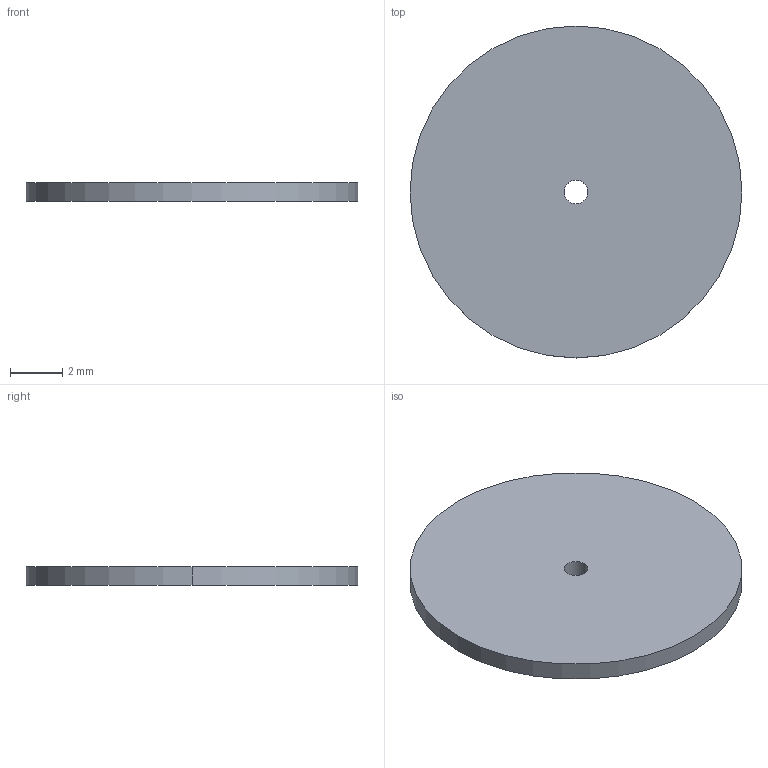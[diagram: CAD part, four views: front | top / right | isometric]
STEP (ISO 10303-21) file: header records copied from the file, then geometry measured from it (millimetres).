
FILE_DESCRIPTION((''),'2;1');
FILE_NAME('09MM','2022-04-24T',('Administrator'),(''),'CREO PARAMETRIC BY PTC INC, 2015290','CREO PARAMETRIC BY PTC INC, 2015290','');
FILE_SCHEMA(('CONFIG_CONTROL_DESIGN'));
Length unit declared in the file: millimetre
Products named in the file (1): 09MM
Bounding box: 12.7 x 12.7 x 0.7 mm (x, y, z)
Volume: 88.2 mm3; surface area: 282 mm2
Topology: 1 solids, 1 shells, 6 faces, 12 edges, 8 vertices
Faces by surface type: cylinder 4, plane 2
Entity records: 206 total; most frequent: DIRECTION 32, CARTESIAN_POINT 26, ORIENTED_EDGE 24, AXIS2_PLACEMENT_3D 14, EDGE_CURVE 12, VERTEX_POINT 8, EDGE_LOOP 8, CIRCLE 8
